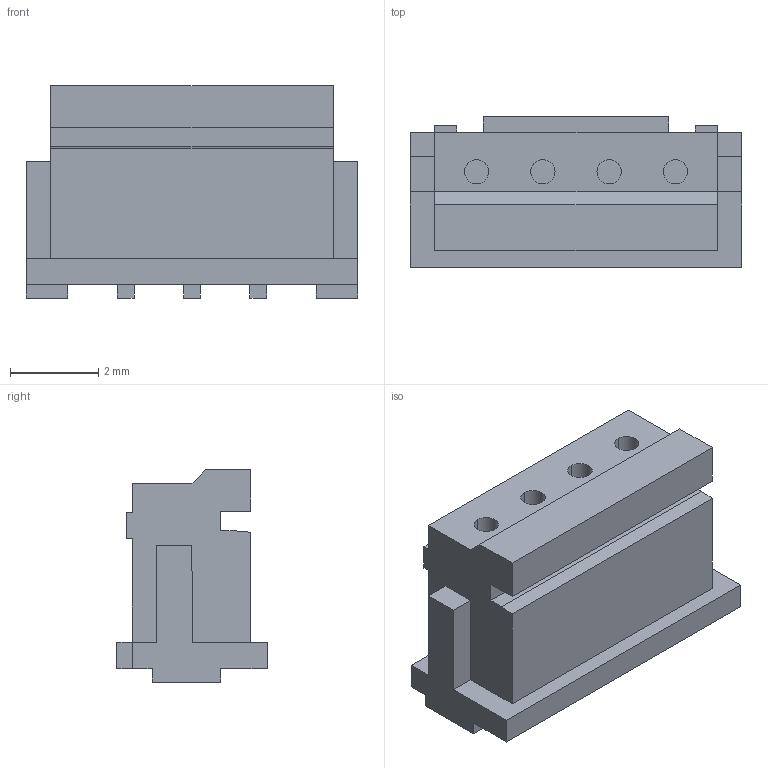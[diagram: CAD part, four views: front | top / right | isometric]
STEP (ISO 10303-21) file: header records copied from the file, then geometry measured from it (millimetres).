
FILE_DESCRIPTION (( 'STEP AP214' ), '1' );
FILE_NAME ('ZHR-4.STEP', '2012-02-07T01:45:27', ( ' ' ), ( ' ' ), 'SwSTEP 2.0', 'SolidWorks 2005235', '' );
FILE_SCHEMA (( 'AUTOMOTIVE_DESIGN' ));
Length unit declared in the file: millimetre
Products named in the file (1): ZHR-4
Bounding box: 7.5 x 3.4 x 4.8 mm (x, y, z)
Volume: 77.6 mm3; surface area: 159.6 mm2
Topology: 1 solids, 1 shells, 85 faces, 221 edges, 142 vertices
Faces by surface type: plane 77, cylinder 8
Entity records: 3501 total; most frequent: CARTESIAN_POINT 449, ORIENTED_EDGE 442, DIRECTION 409, EDGE_CURVE 221, VECTOR 205, LINE 205, VERTEX_POINT 142, AXIS2_PLACEMENT_3D 102
